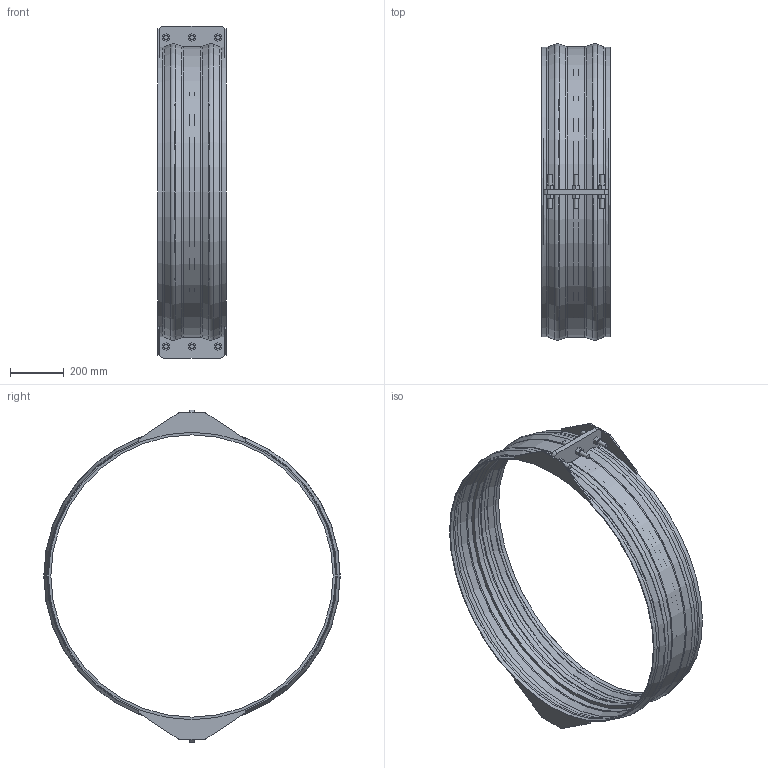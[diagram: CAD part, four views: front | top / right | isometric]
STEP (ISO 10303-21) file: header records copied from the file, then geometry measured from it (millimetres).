
FILE_DESCRIPTION(/* description */ ('VIC SS NON RESTRAINED COUPLING STYLE 229S (FLEX) (BEF)','CAx-IF Rec.Pracs.---Representation and Presentation of Product Manufacturing Information (PMI)---4.0---2014-10-13'),/* implementation_level */ '2;1');
FILE_NAME(/* name */ 'C:\Users\Vjadhav\Desktop\CAD for Inventor\1\229S\STEP\Victaulic_VBSP_Coupling Flexible Non-Restrained_Style 229S (BEF)\Victaulic_VBSP_Coupling Flexible Non-Restrained_Style 229S (BEF)_42 (1050).stp',/* time_stamp */ '2021-08-26T18:17:24+06:00',/* author */ ('Vjadhav'),/* organization */ ('Victaulic'),/* preprocessor_version */ 'ST-DEVELOPER v17.2',/* originating_system */ 'Autodesk Inventor 2019',/* authorisation */ '');
FILE_SCHEMA (('AP242_MANAGED_MODEL_BASED_3D_ENGINEERING_MIM_LF { 1 0 10303 442 1 1 4 }'));
Length unit declared in the file: inch
Products named in the file (1): 229S-42.0
Bounding box: 254 x 1100.63 x 1232.69 mm (x, y, z)
Volume: 5348269.6 mm3; surface area: 2135637.3 mm2
Topology: 1 solids, 1 shells, 203 faces, 541 edges, 366 vertices
Faces by surface type: plane 130, cylinder 43, torus 18, cone 12
Full cylindrical faces by diameter (mm): 15.875 x12, 1047.75 x1, 1066.8 x2, 1073.15 x2
Entity records: 6848 total; most frequent: CARTESIAN_POINT 1336, DIRECTION 1095, ORIENTED_EDGE 1082, EDGE_CURVE 541, AXIS2_PLACEMENT_3D 369, VERTEX_POINT 366, LINE 357, VECTOR 357
